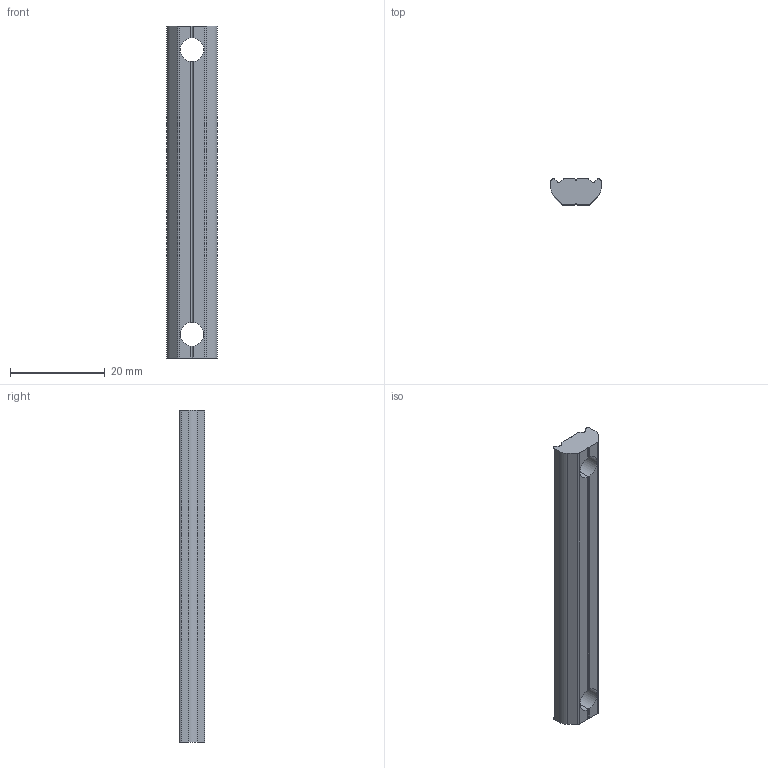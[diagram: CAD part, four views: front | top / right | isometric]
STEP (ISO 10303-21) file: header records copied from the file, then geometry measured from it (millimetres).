
FILE_DESCRIPTION (( 'STEP AP214' ), '1' );
FILE_NAME ('PTN-M5P60.STEP', '2019-10-30T02:36:55', ( '微软用户' ), ( '微软中国' ), 'SwSTEP 2.0', 'SolidWorks 2016', '' );
FILE_SCHEMA (( 'AUTOMOTIVE_DESIGN' ));
Length unit declared in the file: millimetre
Products named in the file (1): PTN-M5P60
Bounding box: 10.6 x 5.4 x 70 mm (x, y, z)
Volume: 3247 mm3; surface area: 2287.6 mm2
Topology: 1 solids, 1 shells, 50 faces, 156 edges, 104 vertices
Faces by surface type: plane 28, cylinder 22
Entity records: 1890 total; most frequent: CARTESIAN_POINT 503, ORIENTED_EDGE 312, DIRECTION 262, EDGE_CURVE 156, VERTEX_POINT 104, LINE 88, VECTOR 88, AXIS2_PLACEMENT_3D 87
